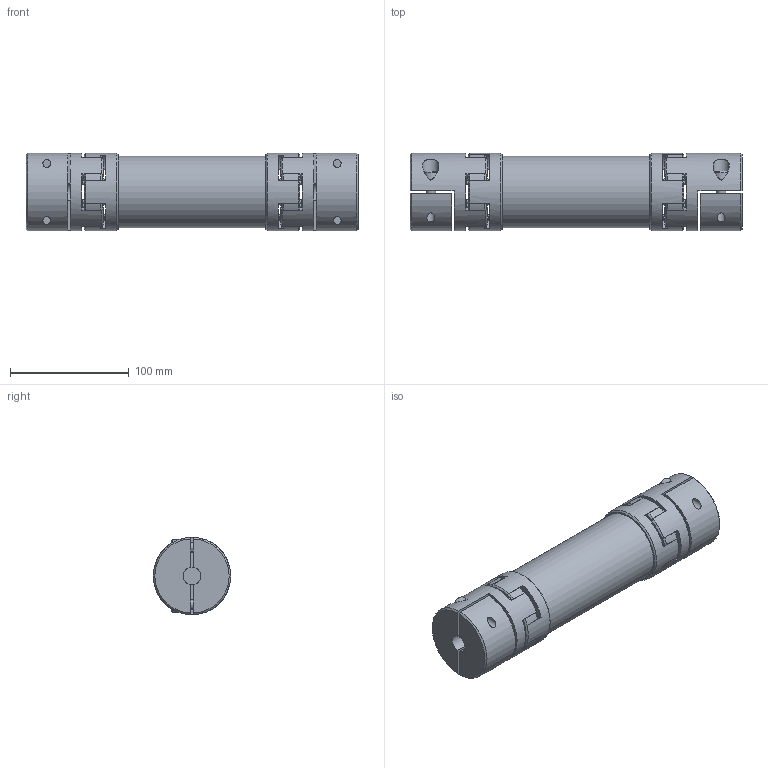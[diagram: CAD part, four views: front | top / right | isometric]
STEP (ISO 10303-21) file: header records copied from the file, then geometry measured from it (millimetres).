
FILE_DESCRIPTION(/* description */ ('Zwischenwellenkupplung AL28'),/* implementation_level */ '2;1');
FILE_NAME(/* name */ 'ALRP28-L205-15-KL-15-KL',/* time_stamp */ '2024-01-05T15:37:49+01:00',/* author */ ('License CC BY-ND 4.0'),/* organization */ ('CADENAS'),/* preprocessor_version */ 'ST-DEVELOPER v20',/* originating_system */ 'Autodesk Inventor 2024',/* authorisation */ ' ');
FILE_SCHEMA (('AUTOMOTIVE_DESIGN { 1 0 10303 214 3 1 1 }'));
Length unit declared in the file: millimetre
Products named in the file (1): Zwischenwellenkupplung AL28
Bounding box: 279 x 65 x 65 mm (x, y, z)
Volume: 617195.9 mm3; surface area: 164811.1 mm2
Topology: 13 solids, 13 shells, 416 faces, 1000 edges, 650 vertices
Faces by surface type: cylinder 184, plane 126, cone 96, torus 10
Full cylindrical faces by diameter (mm): 3 x24, 4.8 x4, 6.647 x4, 8 x4, 9 x4, 13 x4, 13.6 x4, 15 x4, 32 x4, 50 x3, 50.2 x4, 60 x1, 65 x4
Entity records: 13171 total; most frequent: CARTESIAN_POINT 2988, DIRECTION 2236, ORIENTED_EDGE 2000, EDGE_CURVE 1000, AXIS2_PLACEMENT_3D 970, VERTEX_POINT 650, CIRCLE 552, EDGE_LOOP 482
